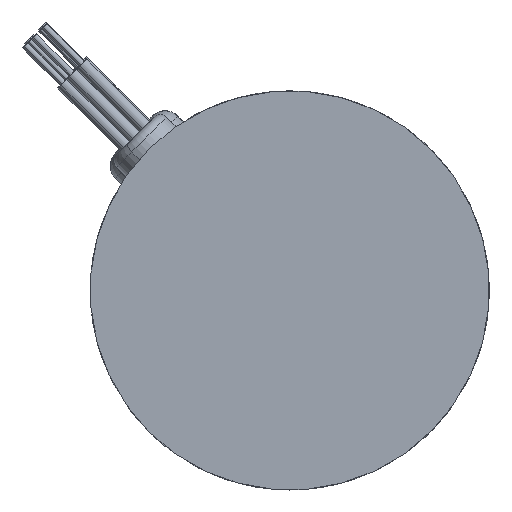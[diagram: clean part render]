
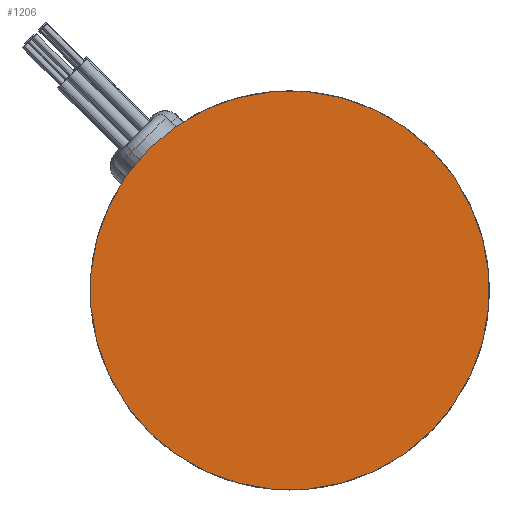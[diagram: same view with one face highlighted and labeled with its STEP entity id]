
A CAD part, left-side view. The second image highlights one B-rep face of the part: STEP entity #1206.
In plain terms, the highlighted planar face has unit normal (-1, 0, 0).
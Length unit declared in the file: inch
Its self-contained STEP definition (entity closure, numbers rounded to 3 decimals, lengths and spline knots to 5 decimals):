
#48 = DIRECTION ( 'NONE',  ( 1., 0., 0. ) ) ;
#350 = AXIS2_PLACEMENT_3D ( 'NONE', #3278, #7183, #5543 ) ;
#958 = DIRECTION ( 'NONE',  ( 1., 0., 0. ) ) ;
#1109 = VERTEX_POINT ( 'NONE', #9603 ) ;
#1206 = ADVANCED_FACE ( 'NONE', ( #8053 ), #1770, .F. ) ;
#1520 = CIRCLE ( 'NONE', #7123, 1.125 ) ;
#1770 = PLANE ( 'NONE',  #3875 ) ;
#3278 = CARTESIAN_POINT ( 'NONE',  ( 0., 0., 0. ) ) ;
#3686 = ORIENTED_EDGE ( 'NONE', *, *, #4599, .F. ) ;
#3875 = AXIS2_PLACEMENT_3D ( 'NONE', #7356, #958, #8169 ) ;
#4147 = CIRCLE ( 'NONE', #350, 1.125 ) ;
#4599 = EDGE_CURVE ( 'NONE', #1109, #6930, #1520, .T. ) ;
#4843 = DIRECTION ( 'NONE',  ( 0., 0.707, -0.707 ) ) ;
#5543 = DIRECTION ( 'NONE',  ( 0., 0.707, -0.707 ) ) ;
#6418 = CARTESIAN_POINT ( 'NONE',  ( 0., 0., 0. ) ) ;
#6930 = VERTEX_POINT ( 'NONE', #8885 ) ;
#7123 = AXIS2_PLACEMENT_3D ( 'NONE', #6418, #48, #4843 ) ;
#7183 = DIRECTION ( 'NONE',  ( 1., 0., 0. ) ) ;
#7356 = CARTESIAN_POINT ( 'NONE',  ( 0., 0., 0. ) ) ;
#7910 = ORIENTED_EDGE ( 'NONE', *, *, #10105, .F. ) ;
#8053 = FACE_OUTER_BOUND ( 'NONE', #8628, .T. ) ;
#8169 = DIRECTION ( 'NONE',  ( 0., 0.707, -0.707 ) ) ;
#8628 = EDGE_LOOP ( 'NONE', ( #7910, #3686 ) ) ;
#8885 = CARTESIAN_POINT ( 'NONE',  ( 0., -0.7955, 0.7955 ) ) ;
#9603 = CARTESIAN_POINT ( 'NONE',  ( 0., 0.7955, -0.7955 ) ) ;
#10105 = EDGE_CURVE ( 'NONE', #6930, #1109, #4147, .T. ) ;
